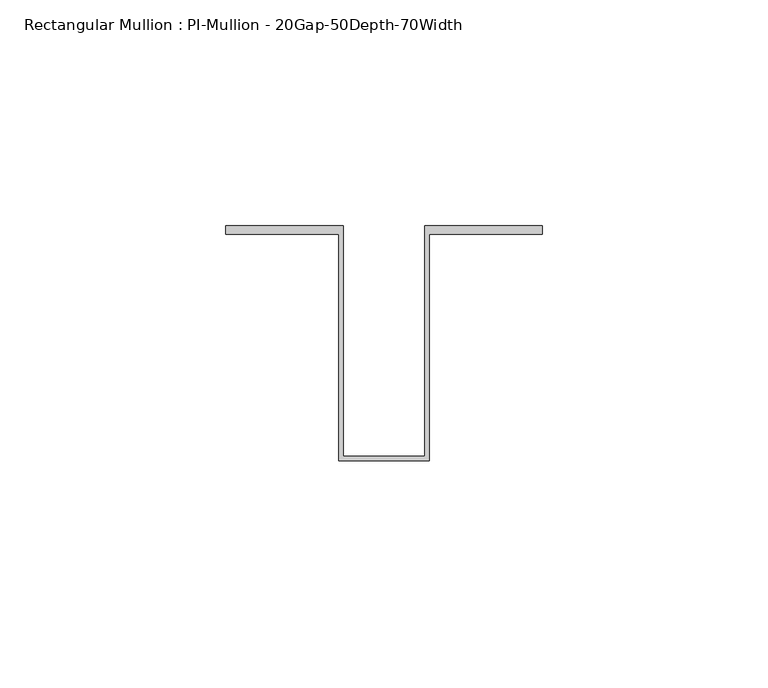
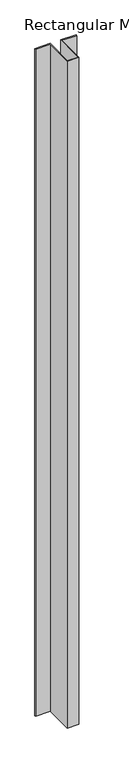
"""IFC4 building model written with IfcOpenShell, lengths in millimetres: member geometry, Rectangular Mullion : PI-Mullion - 20Gap-50Depth-70Width."""

from ifc_helpers import new_model, si_unit, frame, origin, place, context, project, spatial, polyline, outline, extrude, source, transform, mapped, element, save


def rectangular_mullion_pi_mullion_20gap_50depth_70width_9113199f(model_context):
    return source(origin(), model_context, "Body", "SweptSolid", [
        extrude(outline(polyline([(10.0, 0.2), (10.0, -50.0), (-10.0, -50.0), (-10.0, 0.2), (-35.0, 0.2), (-35.0, 2.0), (-9.0, 2.0), (-9.0, -49.0), (9.0, -49.0), (9.0, 2.0), (35.0, 2.0), (35.0, 0.2), (10.0, 0.2)])), frame((0.0, 0.0, -1200.0), z_axis=(0.0, 0.0, 1.0), x_axis=(1.0, 0.0, 0.0)), (0.0, 0.0, 1.0), 1200.0),
    ])


if __name__ == "__main__":
    model = new_model("IFC4")
    model_context = context("Model", 3, world=origin())
    ifc_project = project(units=[si_unit("LENGTHUNIT", "METRE", prefix="MILLI")], contexts=[model_context])
    site = spatial("IfcSite", under=ifc_project)
    building = spatial("IfcBuilding", under=site)
    placement = place(None, origin())
    rectangular_mullion_pi_mullion_20gap_50depth_70width_shape = rectangular_mullion_pi_mullion_20gap_50depth_70width_9113199f(model_context)
    element("IfcMember", 1, ObjectType="Rectangular Mullion : PI-Mullion - 20Gap-50Depth-70Width", at=placement, inside=building, context=model_context, shape_type="MappedRepresentation", body=[
        mapped(rectangular_mullion_pi_mullion_20gap_50depth_70width_shape, transform((0.0, 0.0, 0.0), x_axis=(1.0, 0.0, 0.0), y_axis=(0.0, 1.0, 0.0), z_axis=(0.0, 0.0, 1.0))),
    ])
    save(model, "model.ifc")
